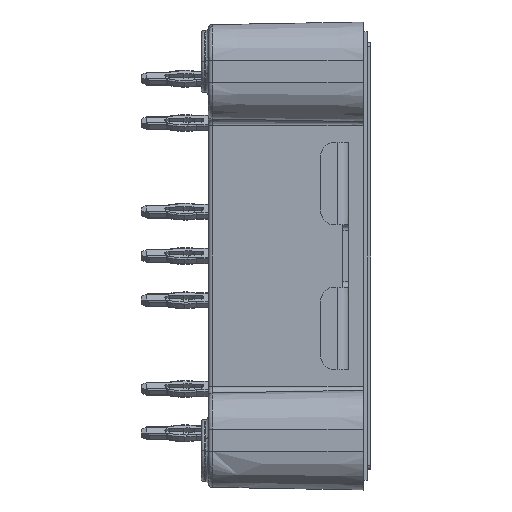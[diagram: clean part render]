
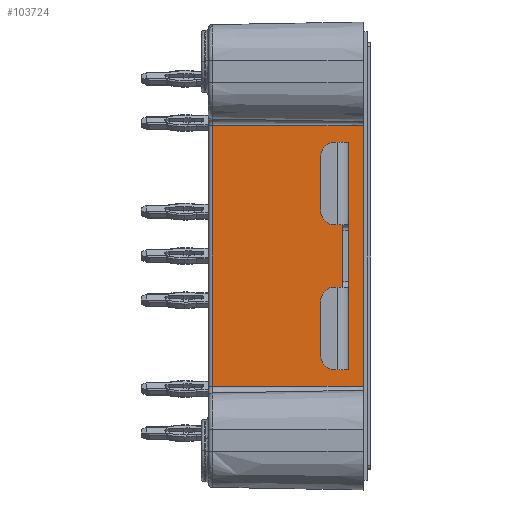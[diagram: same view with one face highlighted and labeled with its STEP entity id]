
A CAD part, left-side view. The second image highlights one B-rep face of the part: STEP entity #103724.
In plain terms, the highlighted planar face has unit normal (-1, 0.018, 0).
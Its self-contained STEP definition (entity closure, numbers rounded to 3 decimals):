
#1194 = VERTEX_POINT ( 'NONE', #6449 ) ;
#1549 = VERTEX_POINT ( 'NONE', #114023 ) ;
#3378 = DIRECTION ( 'NONE',  ( 0., 0., 1. ) ) ;
#6449 = CARTESIAN_POINT ( 'NONE',  ( -20.481, 1.35, 8.2 ) ) ;
#7215 = ORIENTED_EDGE ( 'NONE', *, *, #92281, .F. ) ;
#8068 = PLANE ( 'NONE',  #98221 ) ;
#8694 = VERTEX_POINT ( 'NONE', #176031 ) ;
#12742 = DIRECTION ( 'NONE',  ( -0.017, -1., 0. ) ) ;
#15672 = DIRECTION ( 'NONE',  ( -0.017, -1., 0. ) ) ;
#16231 = LINE ( 'NONE', #75641, #23067 ) ;
#16845 = VERTEX_POINT ( 'NONE', #28560 ) ;
#23067 = VECTOR ( 'NONE', #135066, 1000. ) ;
#25550 = CARTESIAN_POINT ( 'NONE',  ( -20.5, 0.28, 14.1 ) ) ;
#26218 = VERTEX_POINT ( 'NONE', #62832 ) ;
#28560 = CARTESIAN_POINT ( 'NONE',  ( -20.5, 0.28, 9.4 ) ) ;
#30291 = LINE ( 'NONE', #149104, #75052 ) ;
#36007 = DIRECTION ( 'NONE',  ( 0., 0., -1. ) ) ;
#36704 = CARTESIAN_POINT ( 'NONE',  ( -20.5, 0.28, -9.4 ) ) ;
#37274 = FACE_OUTER_BOUND ( 'NONE', #175049, .T. ) ;
#39545 = EDGE_CURVE ( 'NONE', #26218, #159697, #63732, .T. ) ;
#41570 = VECTOR ( 'NONE', #3378, 1000. ) ;
#43894 = LINE ( 'NONE', #162724, #75252 ) ;
#47649 = ORIENTED_EDGE ( 'NONE', *, *, #149154, .T. ) ;
#62832 = CARTESIAN_POINT ( 'NONE',  ( -20.474, 1.75, -8.2 ) ) ;
#63732 = LINE ( 'NONE', #164092, #171757 ) ;
#72505 = ORIENTED_EDGE ( 'NONE', *, *, #130102, .T. ) ;
#75052 = VECTOR ( 'NONE', #15672, 1000. ) ;
#75252 = VECTOR ( 'NONE', #12742, 1000. ) ;
#75641 = CARTESIAN_POINT ( 'NONE',  ( -20.5, 0.28, 14.1 ) ) ;
#77078 = LINE ( 'NONE', #109191, #85898 ) ;
#85898 = VECTOR ( 'NONE', #121914, 1000. ) ;
#89743 = CARTESIAN_POINT ( 'NONE',  ( -20.5, 0.28, 9.4 ) ) ;
#92281 = EDGE_CURVE ( 'NONE', #8694, #1194, #123156, .T. ) ;
#96686 = DIRECTION ( 'NONE',  ( 0., 0., 1. ) ) ;
#97234 = EDGE_CURVE ( 'NONE', #1549, #167866, #139264, .T. ) ;
#98221 = AXIS2_PLACEMENT_3D ( 'NONE', #25550, #158949, #96686 ) ;
#99562 = FACE_BOUND ( 'NONE', #113173, .T. ) ;
#103405 = DIRECTION ( 'NONE',  ( -0.017, -1., 0. ) ) ;
#103724 = ADVANCED_FACE ( 'NONE', ( #99562, #37274 ), #8068, .T. ) ;
#103909 = ORIENTED_EDGE ( 'NONE', *, *, #39545, .T. ) ;
#106452 = EDGE_CURVE ( 'NONE', #1549, #16845, #176469, .T. ) ;
#109191 = CARTESIAN_POINT ( 'NONE',  ( -20.5, 0.28, -8.2 ) ) ;
#111470 = EDGE_CURVE ( 'NONE', #159697, #1194, #43894, .T. ) ;
#111961 = CARTESIAN_POINT ( 'NONE',  ( -20.31, 11.185, -9.4 ) ) ;
#112265 = VERTEX_POINT ( 'NONE', #36704 ) ;
#113173 = EDGE_LOOP ( 'NONE', ( #47649, #103909, #184240, #7215 ) ) ;
#114023 = CARTESIAN_POINT ( 'NONE',  ( -20.31, 11.185, 9.4 ) ) ;
#121247 = DIRECTION ( 'NONE',  ( 0., 0., 1. ) ) ;
#121914 = DIRECTION ( 'NONE',  ( 0.017, 1., 0. ) ) ;
#122532 = CARTESIAN_POINT ( 'NONE',  ( -20.474, 1.75, 8.2 ) ) ;
#123156 = LINE ( 'NONE', #135841, #41570 ) ;
#123674 = VECTOR ( 'NONE', #103405, 1000. ) ;
#126195 = CARTESIAN_POINT ( 'NONE',  ( -20.31, 11.185, -9.4 ) ) ;
#130102 = EDGE_CURVE ( 'NONE', #167866, #112265, #30291, .T. ) ;
#135066 = DIRECTION ( 'NONE',  ( 0., 0., 1. ) ) ;
#135841 = CARTESIAN_POINT ( 'NONE',  ( -20.481, 1.35, 14.1 ) ) ;
#135933 = ORIENTED_EDGE ( 'NONE', *, *, #106452, .F. ) ;
#139264 = LINE ( 'NONE', #111961, #140048 ) ;
#139388 = EDGE_CURVE ( 'NONE', #112265, #16845, #16231, .T. ) ;
#140048 = VECTOR ( 'NONE', #36007, 1000. ) ;
#149104 = CARTESIAN_POINT ( 'NONE',  ( -20.5, 0.28, -9.4 ) ) ;
#149154 = EDGE_CURVE ( 'NONE', #8694, #26218, #77078, .T. ) ;
#158949 = DIRECTION ( 'NONE',  ( -1., 0.017, 0. ) ) ;
#159697 = VERTEX_POINT ( 'NONE', #122532 ) ;
#162724 = CARTESIAN_POINT ( 'NONE',  ( -20.5, 0.28, 8.2 ) ) ;
#164092 = CARTESIAN_POINT ( 'NONE',  ( -20.474, 1.75, 14.1 ) ) ;
#167866 = VERTEX_POINT ( 'NONE', #126195 ) ;
#171757 = VECTOR ( 'NONE', #121247, 1000. ) ;
#175049 = EDGE_LOOP ( 'NONE', ( #135933, #181844, #72505, #178619 ) ) ;
#176031 = CARTESIAN_POINT ( 'NONE',  ( -20.481, 1.35, -8.2 ) ) ;
#176469 = LINE ( 'NONE', #89743, #123674 ) ;
#178619 = ORIENTED_EDGE ( 'NONE', *, *, #139388, .T. ) ;
#181844 = ORIENTED_EDGE ( 'NONE', *, *, #97234, .T. ) ;
#184240 = ORIENTED_EDGE ( 'NONE', *, *, #111470, .T. ) ;
